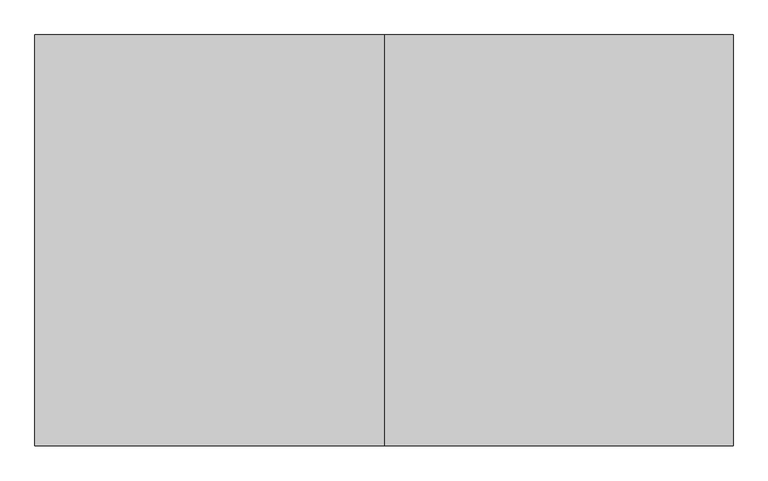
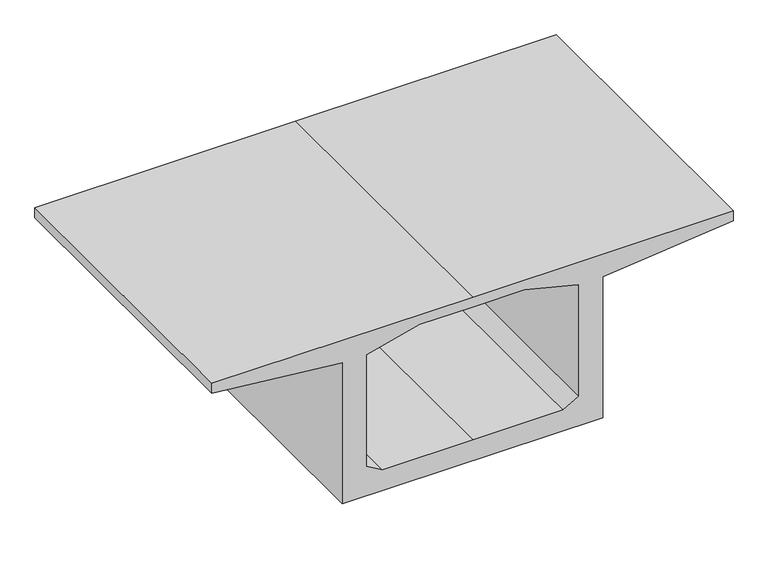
"""IFC4 building model written with IfcOpenShell, lengths in millimetres: beam geometry, 箱梁 : 箱梁."""

from ifc_helpers import new_model, si_unit, frame, origin, place, context, project, spatial, polyline, outline, extrude, source, transform, mapped, element, save


def beam_bb3914b2(model_context):
    return source(origin(), model_context, "Body", "SweptSolid", [
        extrude(outline(polyline([(5645.0, -7934.6192372), (5295.0, -7934.6192372), (4865.0, -3684.6192372), (0.0, -3684.6192372), (0.0, 4815.3807628), (4865.0, 4815.3807628), (5295.0, 9065.3807628), (5645.0, 9065.3807628), (5645.0, 565.3807628), (5645.0, -7934.6192372)]), holes=[polyline([(720.0, -2384.6192372), (1020.0, -2884.6192372), (4865.0, -2884.6192372), (5295.0, -1134.6192372), (5295.0, 565.3807628), (5295.0, 2265.3807628), (4865.0, 4015.3807628), (1020.0, 4015.3807628), (720.0, 3515.3807628), (720.0, 565.3807628), (720.0, -2384.6192372)])]), frame((0.0, 335.2968439, 0.0), z_axis=(0.0, 1.0, 0.0), x_axis=(0.0, 0.0, 1.0)), (0.0, 0.0, 1.0), 10000.0),
    ])


if __name__ == "__main__":
    model = new_model("IFC4")
    model_context = context("Model", 3, world=origin())
    ifc_project = project(units=[si_unit("LENGTHUNIT", "METRE", prefix="MILLI")], contexts=[model_context])
    site = spatial("IfcSite", under=ifc_project)
    building = spatial("IfcBuilding", under=site)
    placement = place(None, origin())
    beam_shape = beam_bb3914b2(model_context)
    element("IfcBeam", 1, ObjectType="箱梁 : 箱梁", at=placement, inside=building, context=model_context, shape_type="MappedRepresentation", body=[
        mapped(beam_shape, transform((0.0, 0.0, 0.0), x_axis=(1.0, 0.0, 0.0), y_axis=(0.0, 1.0, 0.0), z_axis=(0.0, 0.0, 1.0))),
    ])
    save(model, "model.ifc")
